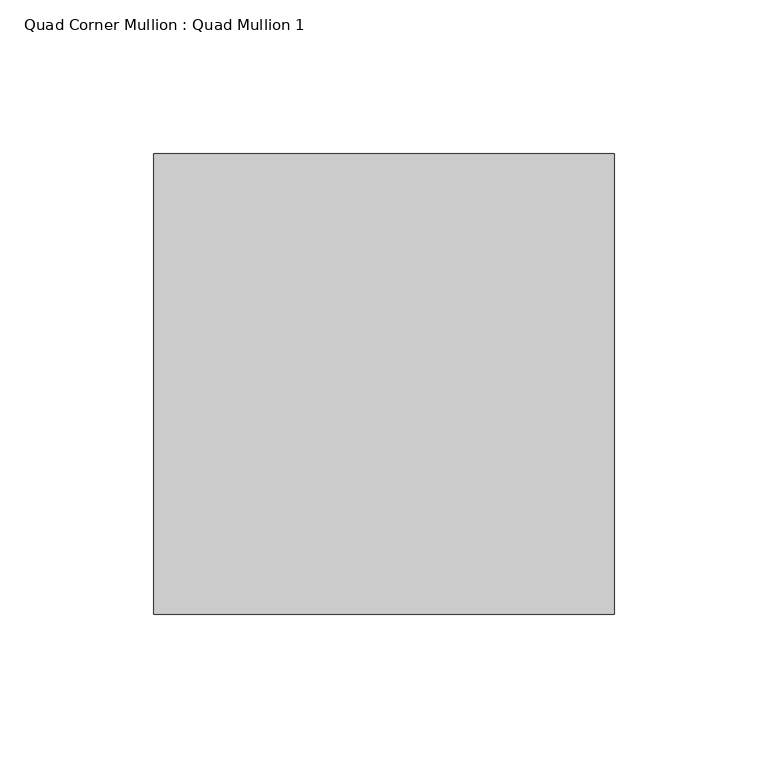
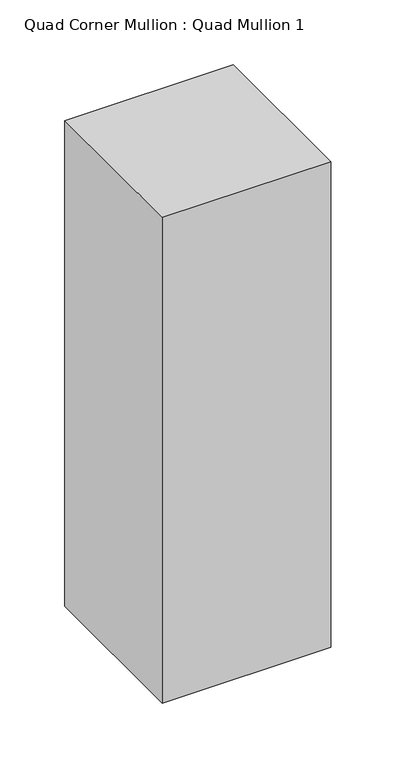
"""IFC4 building model written with IfcOpenShell, lengths in millimetres: member geometry, Quad Corner Mullion : Quad Mullion 1."""

from ifc_helpers import new_model, si_unit, frame, origin, place, context, project, spatial, polyline, outline, extrude, source, transform, mapped, element, save


def quad_corner_mullion_quad_mullion_1_d3d17435(model_context):
    return source(origin(), model_context, "Body", "SweptSolid", [
        extrude(outline(polyline([(75.0, 75.0), (75.0, -75.0), (-75.0, -75.0), (-75.0, 75.0), (75.0, 75.0)])), frame((0.0, 0.0, -457.2), z_axis=(0.0, 0.0, 1.0), x_axis=(1.0, 0.0, 0.0)), (0.0, 0.0, 1.0), 457.2),
    ])


if __name__ == "__main__":
    model = new_model("IFC4")
    model_context = context("Model", 3, world=origin())
    ifc_project = project(units=[si_unit("LENGTHUNIT", "METRE", prefix="MILLI")], contexts=[model_context])
    site = spatial("IfcSite", under=ifc_project)
    building = spatial("IfcBuilding", under=site)
    placement = place(None, origin())
    quad_corner_mullion_quad_mullion_1_shape = quad_corner_mullion_quad_mullion_1_d3d17435(model_context)
    element("IfcMember", 1, ObjectType="Quad Corner Mullion : Quad Mullion 1", at=placement, inside=building, context=model_context, shape_type="MappedRepresentation", body=[
        mapped(quad_corner_mullion_quad_mullion_1_shape, transform((0.0, 0.0, 0.0), x_axis=(1.0, 0.0, 0.0), y_axis=(0.0, 1.0, 0.0), z_axis=(0.0, 0.0, 1.0))),
    ])
    save(model, "model.ifc")
